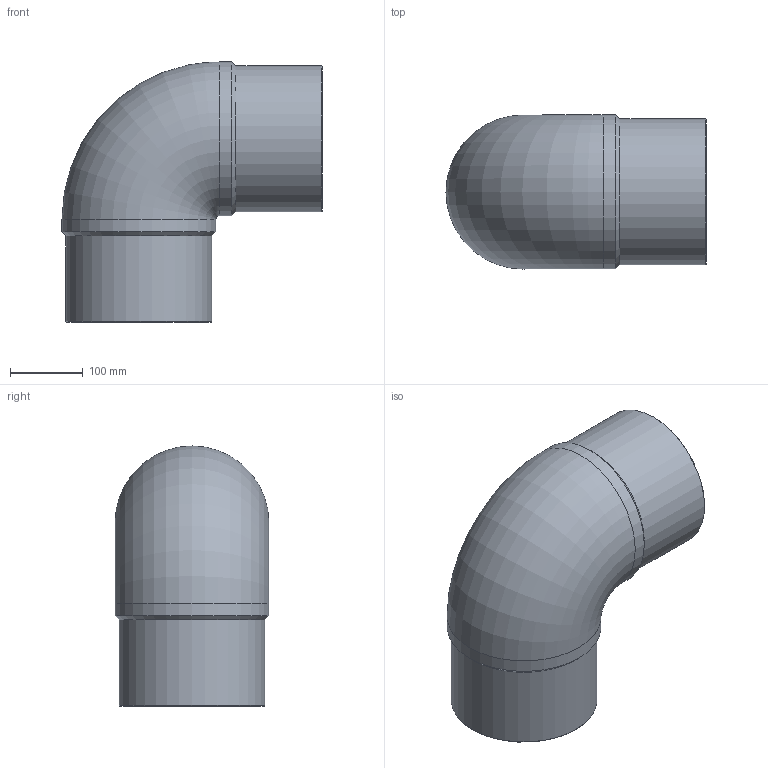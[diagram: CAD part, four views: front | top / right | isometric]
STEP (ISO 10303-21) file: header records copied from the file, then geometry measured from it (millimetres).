
FILE_DESCRIPTION(/* description */ ('Unknown'),/* implementation_level */ '2;1');
FILE_NAME(/* name */ 'G9P200H',/* time_stamp */ '2021-11-15T16:52:22+01:00',/* author */ ('Unknown'),/* organization */ ('Unknown'),/* preprocessor_version */ 'ST-DEVELOPER v16.7',/* originating_system */ 'Solid Edge',/* authorisation */ 'Unknown');
FILE_SCHEMA (('AUTOMOTIVE_DESIGN {1 0 10303 214 3 1 1}'));
Length unit declared in the file: millimetre
Products named in the file (1): G9P200H
Bounding box: 356.5 x 211 x 356.5 mm (x, y, z)
Volume: 7607231.7 mm3; surface area: 533519.3 mm2
Topology: 1 solids, 1 shells, 14 faces, 34 edges, 22 vertices
Faces by surface type: cylinder 6, cone 4, plane 2, torus 2
Full cylindrical faces by diameter (mm): 145.2 x2, 200 x2, 211 x2
Entity records: 378 total; most frequent: CARTESIAN_POINT 78, DIRECTION 60, ORIENTED_EDGE 38, AXIS2_PLACEMENT_3D 30, EDGE_LOOP 27, FACE_BOUND 27, EDGE_CURVE 19, VERTEX_POINT 18
